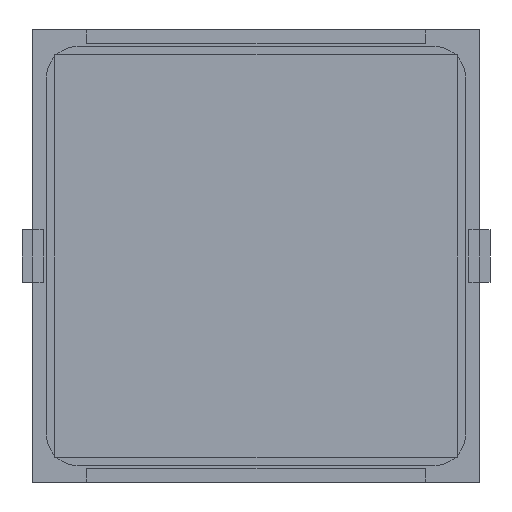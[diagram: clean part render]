
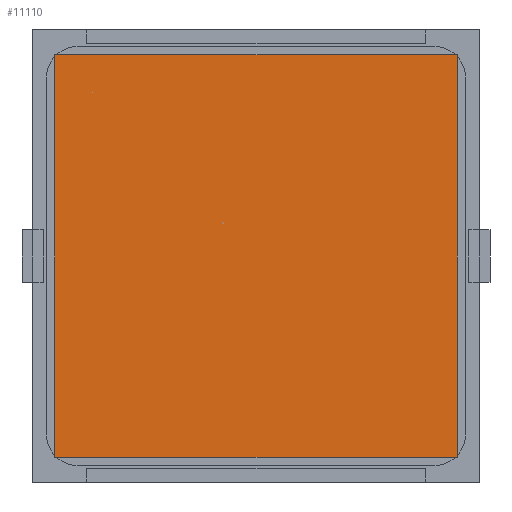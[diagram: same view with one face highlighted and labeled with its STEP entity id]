
A CAD part, front view. The second image highlights one B-rep face of the part: STEP entity #11110.
In plain terms, the highlighted planar face has unit normal (0, -1, 0).
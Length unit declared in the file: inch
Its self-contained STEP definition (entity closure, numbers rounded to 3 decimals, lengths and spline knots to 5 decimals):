
#738 = VERTEX_POINT ( 'NONE', #4683 ) ;
#773 = LINE ( 'NONE', #12315, #15542 ) ;
#868 = DIRECTION ( 'NONE',  ( 0., 0., 1. ) ) ;
#1546 = DIRECTION ( 'NONE',  ( 0., -1., 0. ) ) ;
#4683 = CARTESIAN_POINT ( 'NONE',  ( -0.74803, -0.005, -0.74803 ) ) ;
#5253 = LINE ( 'NONE', #11322, #13378 ) ;
#6129 = CARTESIAN_POINT ( 'NONE',  ( -0.74803, -0.005, 0.74803 ) ) ;
#6405 = DIRECTION ( 'NONE',  ( -1., 0., 0. ) ) ;
#6570 = AXIS2_PLACEMENT_3D ( 'NONE', #7416, #1546, #16329 ) ;
#7201 = EDGE_CURVE ( 'NONE', #11736, #8017, #13951, .T. ) ;
#7416 = CARTESIAN_POINT ( 'NONE',  ( 0.74803, -0.005, 0.74803 ) ) ;
#7939 = CARTESIAN_POINT ( 'NONE',  ( 0.74803, -0.005, 0.74803 ) ) ;
#8017 = VERTEX_POINT ( 'NONE', #6129 ) ;
#8977 = ORIENTED_EDGE ( 'NONE', *, *, #7201, .T. ) ;
#9011 = DIRECTION ( 'NONE',  ( 0., 0., -1. ) ) ;
#9121 = LINE ( 'NONE', #12016, #10535 ) ;
#9749 = EDGE_LOOP ( 'NONE', ( #16391, #8977, #16636, #17573 ) ) ;
#10535 = VECTOR ( 'NONE', #9011, 39.37008 ) ;
#10606 = VECTOR ( 'NONE', #6405, 39.37008 ) ;
#10987 = FACE_OUTER_BOUND ( 'NONE', #9749, .T. ) ;
#11110 = ADVANCED_FACE ( 'NONE', ( #10987 ), #18679, .T. ) ;
#11322 = CARTESIAN_POINT ( 'NONE',  ( 0.74803, -0.005, -0.74803 ) ) ;
#11736 = VERTEX_POINT ( 'NONE', #18494 ) ;
#12016 = CARTESIAN_POINT ( 'NONE',  ( -0.74803, -0.005, -0.74803 ) ) ;
#12315 = CARTESIAN_POINT ( 'NONE',  ( 0.74803, -0.005, -0.74803 ) ) ;
#13228 = VERTEX_POINT ( 'NONE', #16441 ) ;
#13378 = VECTOR ( 'NONE', #868, 39.37008 ) ;
#13467 = EDGE_CURVE ( 'NONE', #8017, #738, #9121, .T. ) ;
#13951 = LINE ( 'NONE', #7939, #10606 ) ;
#15542 = VECTOR ( 'NONE', #16920, 39.37008 ) ;
#16193 = EDGE_CURVE ( 'NONE', #738, #13228, #773, .T. ) ;
#16264 = EDGE_CURVE ( 'NONE', #13228, #11736, #5253, .T. ) ;
#16329 = DIRECTION ( 'NONE',  ( 0., 0., 1. ) ) ;
#16391 = ORIENTED_EDGE ( 'NONE', *, *, #16264, .T. ) ;
#16441 = CARTESIAN_POINT ( 'NONE',  ( 0.74803, -0.005, -0.74803 ) ) ;
#16636 = ORIENTED_EDGE ( 'NONE', *, *, #13467, .T. ) ;
#16920 = DIRECTION ( 'NONE',  ( 1., 0., 0. ) ) ;
#17573 = ORIENTED_EDGE ( 'NONE', *, *, #16193, .T. ) ;
#18494 = CARTESIAN_POINT ( 'NONE',  ( 0.74803, -0.005, 0.74803 ) ) ;
#18679 = PLANE ( 'NONE',  #6570 ) ;
